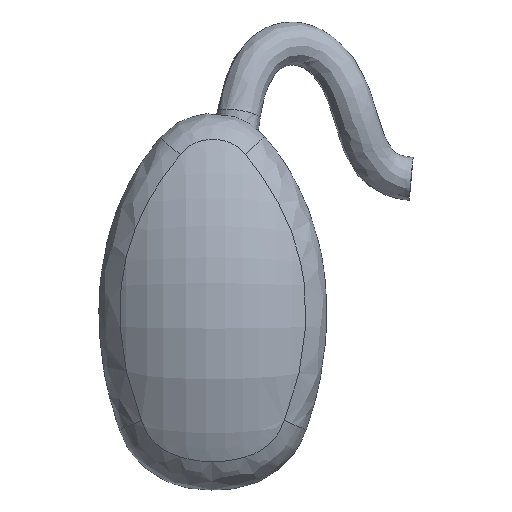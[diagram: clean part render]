
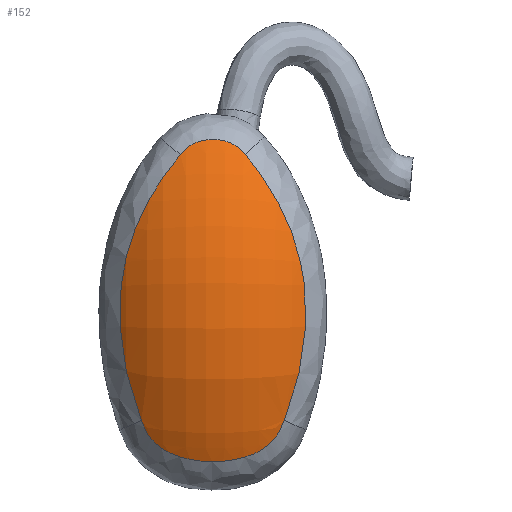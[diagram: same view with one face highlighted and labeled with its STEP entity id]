
A CAD part, left-side view. The second image highlights one B-rep face of the part: STEP entity #152.
In plain terms, the highlighted toroidal (fillet/blend) face has major radius 5.006 mm and minor radius 3.245 mm.
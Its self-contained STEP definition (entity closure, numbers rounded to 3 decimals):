
#107=TOROIDAL_SURFACE('',#343,5.006,3.245);
#127=B_SPLINE_CURVE_WITH_KNOTS('',5,(#546,#547,#548,#549,#550,#551,#552,
#553,#554,#555,#556,#557,#558,#559,#560,#561,#562,#563),.UNSPECIFIED.,.F.,
 .F.,(6,3,3,3,3,6),(0.,0.195,0.409,0.605,
0.808,1.),.UNSPECIFIED.);
#129=B_SPLINE_CURVE_WITH_KNOTS('',5,(#641,#642,#643,#644,#645,#646,#647,
#648,#649,#650,#651,#652),.UNSPECIFIED.,.F.,.F.,(6,3,3,6),(0.,0.217,
0.528,1.),.UNSPECIFIED.);
#131=B_SPLINE_CURVE_WITH_KNOTS('',5,(#706,#707,#708,#709,#710,#711,#712,
#713,#714,#715,#716,#717,#718,#719,#720),.UNSPECIFIED.,.F.,.F.,(6,3,3,3,
6),(0.,0.192,0.447,0.693,1.),.UNSPECIFIED.);
#132=B_SPLINE_CURVE_WITH_KNOTS('',3,(#781,#782,#783,#784,#785,#786,#787,
#788,#789,#790,#791,#792,#793,#794,#795,#796),.UNSPECIFIED.,.F.,.F.,(4,2,
2,2,2,2,2,4),(0.,0.25,0.5,0.625,0.75,0.813,0.875,1.),.UNSPECIFIED.);
#152=ADVANCED_FACE('PARTBODY',(#171),#107,.T.);
#171=FACE_OUTER_BOUND('',#190,.T.);
#190=EDGE_LOOP('',(#235,#236,#237,#238));
#235=ORIENTED_EDGE('',*,*,#307,.T.);
#236=ORIENTED_EDGE('',*,*,#306,.F.);
#237=ORIENTED_EDGE('',*,*,#304,.F.);
#238=ORIENTED_EDGE('',*,*,#302,.F.);
#276=VERTEX_POINT('',#540);
#277=VERTEX_POINT('',#545);
#278=VERTEX_POINT('',#640);
#279=VERTEX_POINT('',#705);
#302=EDGE_CURVE('',#277,#276,#127,.T.);
#304=EDGE_CURVE('',#276,#278,#129,.T.);
#306=EDGE_CURVE('',#278,#279,#131,.T.);
#307=EDGE_CURVE('',#277,#279,#132,.T.);
#343=AXIS2_PLACEMENT_3D('',#857,#375,#376);
#375=DIRECTION('',(0.,1.,0.));
#376=DIRECTION('',(0.771,0.,0.637));
#540=CARTESIAN_POINT('',(-0.872,1.645,-2.489));
#545=CARTESIAN_POINT('',(-0.872,-1.645,-2.489));
#546=CARTESIAN_POINT('',(-0.872,-1.645,-2.489));
#547=CARTESIAN_POINT('',(-0.856,-1.582,-2.65));
#548=CARTESIAN_POINT('',(-0.836,-1.516,-2.81));
#549=CARTESIAN_POINT('',(-0.842,-1.419,-2.934));
#550=CARTESIAN_POINT('',(-0.866,-1.193,-3.147));
#551=CARTESIAN_POINT('',(-0.91,-0.914,-3.281));
#552=CARTESIAN_POINT('',(-0.933,-0.751,-3.339));
#553=CARTESIAN_POINT('',(-0.97,-0.408,-3.42));
#554=CARTESIAN_POINT('',(-0.982,-0.055,-3.441));
#555=CARTESIAN_POINT('',(-0.981,0.114,-3.439));
#556=CARTESIAN_POINT('',(-0.966,0.456,-3.411));
#557=CARTESIAN_POINT('',(-0.928,0.787,-3.327));
#558=CARTESIAN_POINT('',(-0.906,0.939,-3.269));
#559=CARTESIAN_POINT('',(-0.864,1.207,-3.135));
#560=CARTESIAN_POINT('',(-0.841,1.424,-2.928));
#561=CARTESIAN_POINT('',(-0.837,1.518,-2.805));
#562=CARTESIAN_POINT('',(-0.856,1.583,-2.648));
#563=CARTESIAN_POINT('',(-0.872,1.645,-2.489));
#640=CARTESIAN_POINT('',(-0.786,0.749,3.633));
#641=CARTESIAN_POINT('',(-0.872,1.645,-2.489));
#642=CARTESIAN_POINT('',(-0.896,1.74,-2.241));
#643=CARTESIAN_POINT('',(-0.911,1.827,-1.989));
#644=CARTESIAN_POINT('',(-0.919,1.903,-1.741));
#645=CARTESIAN_POINT('',(-0.926,2.075,-1.057));
#646=CARTESIAN_POINT('',(-0.915,2.158,-0.356));
#647=CARTESIAN_POINT('',(-0.911,2.17,0.06));
#648=CARTESIAN_POINT('',(-0.924,2.102,1.093));
#649=CARTESIAN_POINT('',(-0.958,1.783,2.083));
#650=CARTESIAN_POINT('',(-0.967,1.503,2.642));
#651=CARTESIAN_POINT('',(-0.914,1.146,3.164));
#652=CARTESIAN_POINT('',(-0.786,0.749,3.633));
#705=CARTESIAN_POINT('',(-0.786,-0.749,3.633));
#706=CARTESIAN_POINT('',(-0.786,0.749,3.633));
#707=CARTESIAN_POINT('',(-0.768,0.693,3.7));
#708=CARTESIAN_POINT('',(-0.748,0.636,3.766));
#709=CARTESIAN_POINT('',(-0.738,0.584,3.805));
#710=CARTESIAN_POINT('',(-0.719,0.467,3.885));
#711=CARTESIAN_POINT('',(-0.708,0.335,3.938));
#712=CARTESIAN_POINT('',(-0.705,0.258,3.96));
#713=CARTESIAN_POINT('',(-0.7,0.098,3.988));
#714=CARTESIAN_POINT('',(-0.7,-0.065,3.987));
#715=CARTESIAN_POINT('',(-0.702,-0.15,3.98));
#716=CARTESIAN_POINT('',(-0.707,-0.331,3.946));
#717=CARTESIAN_POINT('',(-0.722,-0.499,3.869));
#718=CARTESIAN_POINT('',(-0.734,-0.595,3.812));
#719=CARTESIAN_POINT('',(-0.761,-0.673,3.724));
#720=CARTESIAN_POINT('',(-0.786,-0.749,3.633));
#781=CARTESIAN_POINT('',(-0.872,-1.645,-2.489));
#782=CARTESIAN_POINT('',(-0.922,-1.845,-1.969));
#783=CARTESIAN_POINT('',(-0.925,-1.981,-1.516));
#784=CARTESIAN_POINT('',(-0.917,-2.165,-0.341));
#785=CARTESIAN_POINT('',(-0.913,-2.168,0.231));
#786=CARTESIAN_POINT('',(-0.927,-2.058,1.015));
#787=CARTESIAN_POINT('',(-0.935,-2.001,1.277));
#788=CARTESIAN_POINT('',(-0.946,-1.839,1.806));
#789=CARTESIAN_POINT('',(-0.949,-1.717,2.111));
#790=CARTESIAN_POINT('',(-0.942,-1.546,2.458));
#791=CARTESIAN_POINT('',(-0.938,-1.484,2.576));
#792=CARTESIAN_POINT('',(-0.923,-1.346,2.813));
#793=CARTESIAN_POINT('',(-0.909,-1.252,2.962));
#794=CARTESIAN_POINT('',(-0.875,-1.066,3.237));
#795=CARTESIAN_POINT('',(-0.841,-0.919,3.432));
#796=CARTESIAN_POINT('',(-0.786,-0.749,3.633));
#857=CARTESIAN_POINT('',(6.524,0.,0.));
